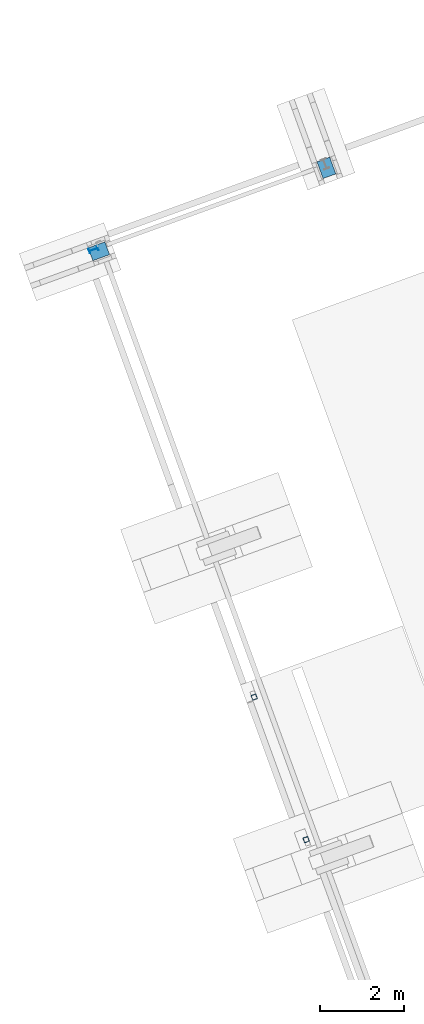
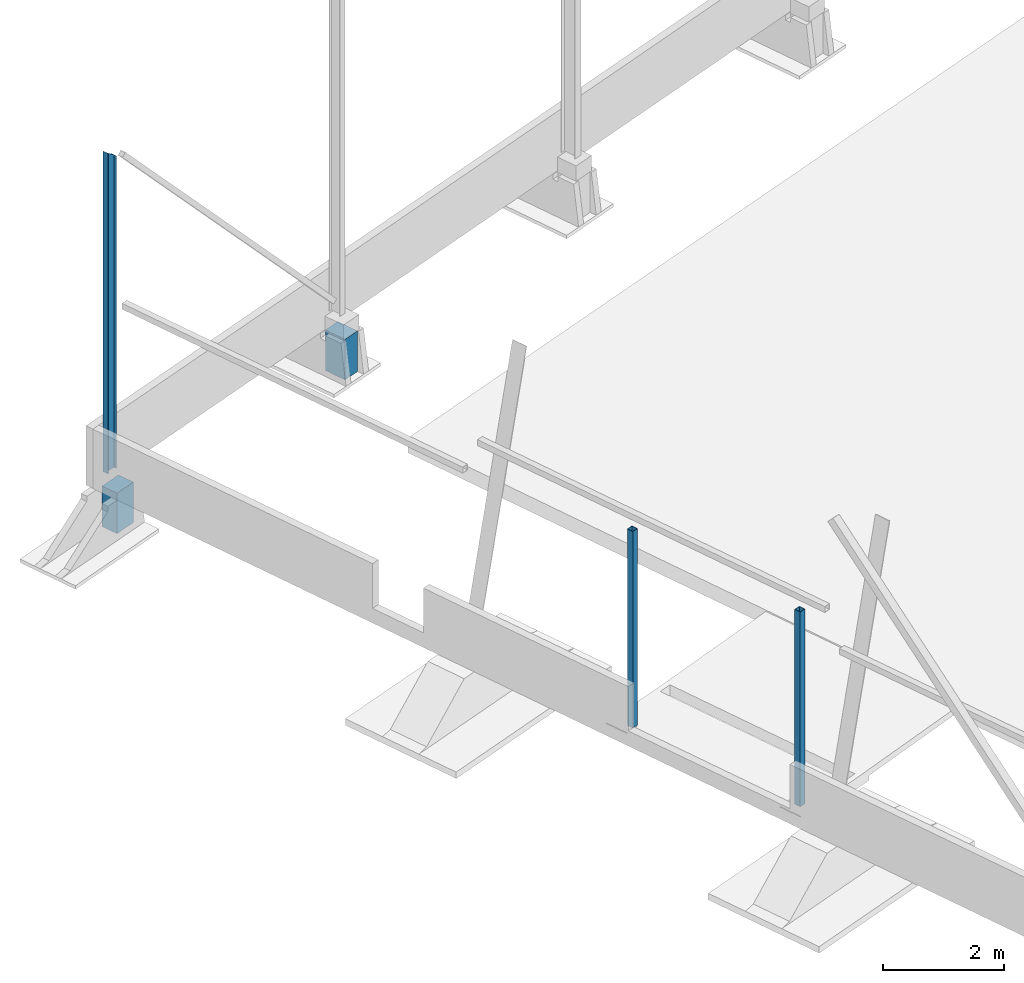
# One storey, part 3 of 20: 5 columns, 1 opening, 5 elements without a shape of their own.
"""IFC4 building model written with IfcOpenShell, lengths in millimetres."""

from ifc_helpers import new_model, si_unit, direction, frame, origin_with_axes, place, context, subcontext, project, spatial, line, indexed_curve, outline, extrude, material, element, aggregate, save


model = new_model("IFC4")

# Units and contexts
model_context = context("Model", 3, precision=0.2, world=frame((203566.813, 116264.779, 0.0), z_axis=(0.0, 0.0, 1.0), x_axis=(1.0, 0.0, 0.0)), true_north=direction((-0.9396138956, -0.3422363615)))
body_context = subcontext(model_context, "Body", "Model", "MODEL_VIEW")
ifc_project = project(units=[si_unit("LENGTHUNIT", "METRE", prefix="MILLI"), si_unit("AREAUNIT", "SQUARE_METRE"), si_unit("VOLUMEUNIT", "CUBIC_METRE"), si_unit("MASSUNIT", "GRAM", prefix="KILO"), si_unit("TIMEUNIT", "SECOND"), si_unit("PLANEANGLEUNIT", "RADIAN"), si_unit("SOLIDANGLEUNIT", "STERADIAN"), si_unit("THERMODYNAMICTEMPERATUREUNIT", "DEGREE_CELSIUS"), si_unit("LUMINOUSINTENSITYUNIT", "LUMEN")], contexts=[model_context])

# Site, building, storey
site_placement = place(None, origin_with_axes())
site = spatial("IfcSite", under=ifc_project, at=site_placement, Name="Nobelprojektet", CompositionType="ELEMENT")
building_placement = place(site_placement, origin_with_axes())
building = spatial("IfcBuilding", under=site, at=building_placement, Name="Hall B", CompositionType="ELEMENT")
storey_placement = place(building_placement, frame((0.0, 0.0, 1000.0), z_axis=(0.0, 0.0, 1.0), x_axis=(1.0, 0.0, 0.0)))
storey = spatial("IfcBuildingStorey", under=building, at=storey_placement, Name="Plan_1", CompositionType="ELEMENT", Elevation=1000.0)

# Assembly, column
assembly_1_placement = place(storey_placement, frame((128619.08594, 173650.30261, 131049.99996), z_axis=(-0.3422371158, 0.9396136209, 1.3e-09), x_axis=(0.0, 0.0, 1.0)))
assembly_1 = element("IfcElementAssembly", 1, at=assembly_1_placement, inside=storey, Name="BEF. GRUND", PredefinedType="NOTDEFINED")
ifc_material_1 = material(Name="C25/30", Category="CONCRETE")
column_1_placement = place(assembly_1_placement, origin_with_axes())
column_1 = element("IfcColumn", 2, at=column_1_placement, material=ifc_material_1, Name="BEF. GRUND", PredefinedType="NOTDEFINED", context=body_context, shape_type="SolidModel", body=[
    extrude(outline(indexed_curve([(-162.0, -212.5), (162.0, -212.5), (162.0, 212.5), (-162.0, 212.5)], segments=[line(1, 2, 3, 4, 1)])), frame((0.0, 0.0, 0.0), z_axis=(-1.0, 0.0, 0.0), x_axis=(0.0, 0.0, 1.0)), (0.0, 0.0, -1.0), 820.0),
])
aggregate(assembly_1, [column_1])

assembly_2_placement = place(storey_placement, frame((134048.11236, 175641.02624, 131049.99996), z_axis=(0.9396136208, 0.3422371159, 0.0), x_axis=(0.0, 0.0, 1.0)))
assembly_2 = element("IfcElementAssembly", 3, at=assembly_2_placement, inside=storey, Name="BEF. GRUND", PredefinedType="NOTDEFINED")
column_2_placement = place(assembly_2_placement, origin_with_axes())
column_2 = element("IfcColumn", 4, at=column_2_placement, material=ifc_material_1, Name="BEF. GRUND", PredefinedType="NOTDEFINED", context=body_context, shape_type="SolidModel", body=[
    extrude(outline(indexed_curve([(-162.0, -212.5), (162.0, -212.5), (162.0, 212.5), (-162.0, 212.5)], segments=[line(1, 2, 3, 4, 1)])), frame((0.0, 0.0, 0.0), z_axis=(-1.0, 0.0, 0.0), x_axis=(0.0, 0.0, 1.0)), (0.0, 0.0, -1.0), 820.0),
])
aggregate(assembly_2, [column_2])

# Assembly, column, voiding feature
assembly_3_placement = place(storey_placement, frame((128490.68551, 173688.68767, 132179.99996), z_axis=(0.3422371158, -0.9396136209, 1.3e-09), x_axis=(0.0, 0.0, 1.0)))
assembly_3 = element("IfcElementAssembly", 5, at=assembly_3_placement, inside=storey, Name="BEF. STOMME", PredefinedType="NOTDEFINED")
ifc_material_2 = material(Name="S355J2", Category="STEEL")
column_3_placement = place(assembly_3_placement, origin_with_axes())
column_3 = element("IfcColumn", 6, at=column_3_placement, material=ifc_material_2, Name="BEF. STOMME", PredefinedType="NOTDEFINED", context=body_context, shape_type="SolidModel", body=[
    extrude(outline(indexed_curve([(-55.0, -110.0), (55.0, -110.0), (55.0, -100.8), (2.95, -100.8), (2.95, 100.8), (55.0, 100.8), (55.0, 110.0), (-55.0, 110.0), (-55.0, 100.8), (-2.95, 100.8), (-2.95, -100.8), (-55.0, -100.8)], segments=[line(1, 2, 3, 4, 5, 6, 7, 8, 9, 10, 11, 12, 1)])), frame((0.0, 0.0, 0.0), z_axis=(-1.0, 0.0, 0.0), x_axis=(0.0, 0.0, 1.0)), (0.0, 0.0, -1.0), 6534.0),
])
voiding_feature_placement = place(column_3_placement, frame((6312.27469, -110.0058, -0.00012), z_axis=(0.0, 0.0, -1.0), x_axis=(0.608784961, 0.793335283, -3e-10)))
element("IfcVoidingFeature", 7, at=voiding_feature_placement, cuts=column_3, Name="CUTPART", PredefinedType="HOLE", context=body_context, shape_type="SolidModel", body=[
    extrude(outline(indexed_curve([(0.0, 0.0), (277.31178, 0.0), (309.52139, 41.96629), (134.98763, 175.89898)], segments=[line(1, 2, 3, 4, 1)])), frame((0.0, 0.0, 57.5), z_axis=(0.0, 0.0, 1.0), x_axis=(1.0, 0.0, 0.0)), (0.0, 0.0, -1.0), 115.0),
])
aggregate(assembly_3, [column_3])

# Assembly, column
assembly_4_placement = place(storey_placement, frame((133564.89717, 159611.34655, 132180.00354), z_axis=(0.9396136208, 0.3422371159, 0.0), x_axis=(0.0, 0.0, 1.0)))
assembly_4 = element("IfcElementAssembly", 8, at=assembly_4_placement, inside=storey, Name="PRIMÄR_BALK", PredefinedType="NOTDEFINED")
column_4_placement = place(assembly_4_placement, origin_with_axes())
column_4 = element("IfcColumn", 9, at=column_4_placement, material=ifc_material_2, Name="BEFINTLIG", PredefinedType="NOTDEFINED", context=body_context, shape_type="SolidModel", body=[
    extrude(outline(indexed_curve([(-60.0, -60.0), (60.0, -60.0), (60.0, 60.0), (-60.0, 60.0)], segments=[line(1, 2, 3, 4, 1)]), holes=[indexed_curve([(-55.0, -55.0), (-55.0, 55.0), (55.0, 55.0), (55.0, -55.0)], segments=[line(1, 2, 3, 4, 1)])]), frame((0.0, 0.0, 0.0), z_axis=(-1.0, 0.0, 0.0), x_axis=(0.0, 0.0, 1.0)), (0.0, 0.0, -1.0), 3940.0),
])
aggregate(assembly_4, [column_4])

assembly_5_placement = place(storey_placement, frame((132325.99881, 163012.74786, 132145.00354), z_axis=(0.9396136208, 0.3422371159, 0.0), x_axis=(0.0, 0.0, 1.0)))
assembly_5 = element("IfcElementAssembly", 10, at=assembly_5_placement, inside=storey, Name="BEFINTLIG", PredefinedType="NOTDEFINED")
column_5_placement = place(assembly_5_placement, origin_with_axes())
column_5 = element("IfcColumn", 11, at=column_5_placement, material=ifc_material_2, Name="BEFINTLIG", PredefinedType="NOTDEFINED", context=body_context, shape_type="SolidModel", body=[
    extrude(outline(indexed_curve([(-60.0, -60.0), (60.0, -60.0), (60.0, 60.0), (-60.0, 60.0)], segments=[line(1, 2, 3, 4, 1)]), holes=[indexed_curve([(-55.0, -55.0), (-55.0, 55.0), (55.0, 55.0), (55.0, -55.0)], segments=[line(1, 2, 3, 4, 1)])]), frame((0.0, 0.0, 0.0), z_axis=(-1.0, 0.0, 0.0), x_axis=(0.0, 0.0, 1.0)), (0.0, 0.0, -1.0), 3975.0),
])
aggregate(assembly_5, [column_5])

save(model, "model.ifc")
